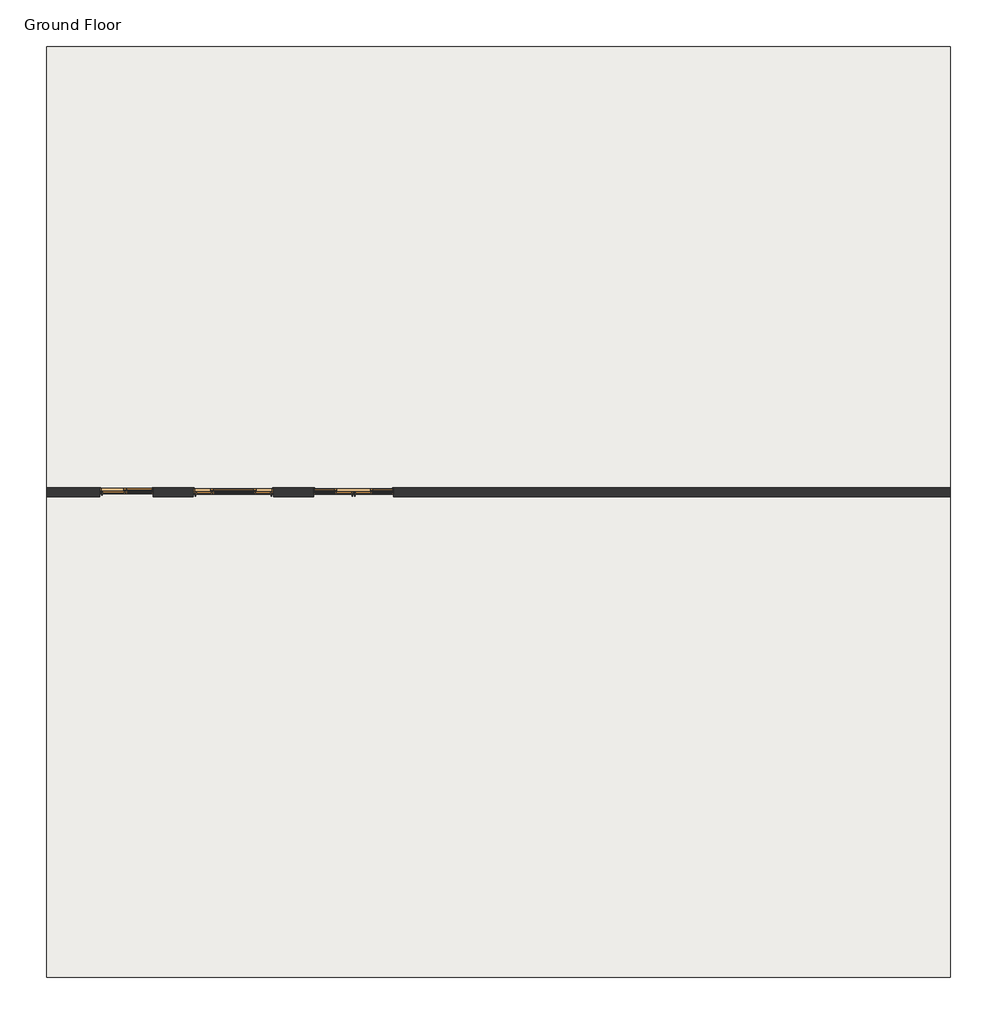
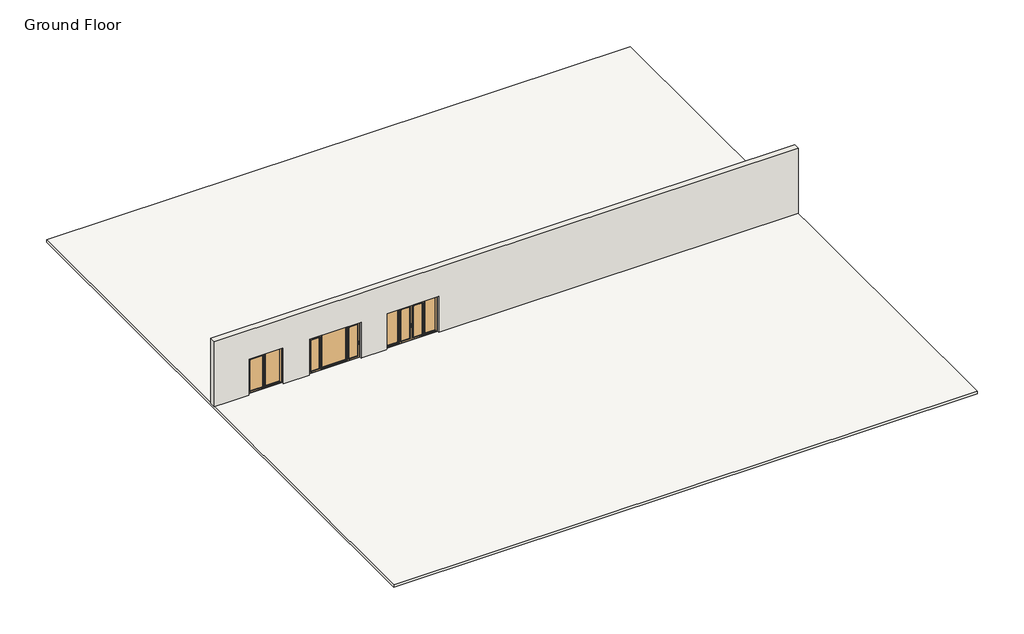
# One storey: 3 doors, 1 slab, 1 wall.
"""IFC4 building model written with IfcOpenShell, lengths in millimetres."""

from ifc_helpers import new_model, si_unit, frame, origin, place, context, project, spatial, polyline, outline, extrude, faceted_brep, transform, mapped, element, save
from components import door_d54a2562, door_69bad120, door_345c49a9, door_62632e80

model = new_model("IFC4")

# Units and contexts
model_context = context("Model", 3, world=origin())
ifc_project = project(units=[si_unit("LENGTHUNIT", "METRE", prefix="MILLI")], contexts=[model_context])

# Site, building, storey
site = spatial("IfcSite", under=ifc_project)
building = spatial("IfcBuilding", under=site)
storey = spatial("IfcBuildingStorey", under=building, Name="Ground Floor", Elevation=0.0)

# Doors
placement = place(None, origin())
door_shape = door_d54a2562(model_context)
element("IfcDoor", 1, ObjectType="2_pod-kli : 2_pod-kli", at=placement, inside=storey, context=model_context, shape_type="MappedRepresentation", body=[
    mapped(door_shape, transform((-12960.8494542, -129.194013, 0.0), x_axis=(1.0, 0.0, 0.0), y_axis=(0.0, 1.0, 0.0), z_axis=(0.0, 0.0, 1.0))),
])
door_2_shape = door_69bad120(model_context)
element("IfcDoor", 2, ObjectType="3_pod-kli_2+fix : 3_pod-kli_2+fix", at=placement, inside=storey, context=model_context, shape_type="MappedRepresentation", body=[
    mapped(door_2_shape, transform((-8940.8494542, -129.194013, -9.0000088), x_axis=(1.0, 0.0, 0.0), y_axis=(0.0, 1.0, 0.0), z_axis=(0.0, 0.0, 1.0))),
])
door_3_shape = door_345c49a9(model_context)
door_4_shape = door_62632e80(model_context)
element("IfcDoor", 3, ObjectType="4_pod-kli_2+2fix : 4_pod-kli_2+2fix", at=placement, inside=storey, context=model_context, shape_type="MappedRepresentation", body=[
    mapped(door_3_shape, transform((-4420.8494542, -129.194013, -8.8e-06), x_axis=(1.0, 0.0, 0.0), y_axis=(0.0, 1.0, 0.0), z_axis=(0.0, 0.0, 1.0))),
    mapped(door_4_shape, transform((-4420.8494542, -129.194013, -8.8e-06), x_axis=(1.0, 0.0, 0.0), y_axis=(0.0, 1.0, 0.0), z_axis=(0.0, 0.0, 1.0))),
])

# Slab
element("IfcSlab", 4, ObjectType="Generic 150mm", at=placement, inside=storey, context=model_context, shape_type="SweptSolid", body=[
    extrude(outline(polyline([(18029.1505458, -18373.0676766), (-15970.8494542, -18373.0676766), (-15970.8494542, 16626.9323234), (18029.1505458, 16626.9323234), (18029.1505458, -18373.0676766)])), frame((0.0, 0.0, -150.0), z_axis=(0.0, 0.0, 1.0), x_axis=(1.0, 0.0, 0.0)), (0.0, 0.0, 1.0), 150.0),
])

# Wall
element("IfcWall", 5, ObjectType="Double brick - 350", at=placement, inside=storey, context=model_context, shape_type="Brep", body=[
    faceted_brep([(18029.1505458, -304.194013, 0.0), (18029.1505458, -304.194013, 4000.0), (-15970.8494542, -304.194013, 4000.0), (-15970.8494542, -304.194013, 0.0), (-13970.8494542, -304.194013, 0.0), (-13970.8494542, -304.194013, 2220.0), (-11950.8494542, -304.194013, 2220.0), (-11950.8494542, -304.194013, 0.0), (-10450.8494542, -304.194013, 0.0), (-10450.8494542, -304.194013, 2210.9999912), (-7430.8494542, -304.194013, 2210.9999912), (-7430.8494542, -304.194013, 0.0), (-5930.8494542, -304.194013, 0.0), (-5930.8494542, -304.194013, 2219.9999912), (-2910.8494542, -304.194013, 2219.9999912), (-2910.8494542, -304.194013, 0.0), (18029.1505458, 45.805987, 4000.0), (18029.1505458, 45.805987, 0.0), (-2950.8494542, 45.805987, 0.0), (-2950.8494542, 45.805987, 2179.9999912), (-5890.8494542, 45.805987, 2179.9999912), (-5890.8494542, 45.805987, 0.0), (-7470.8494542, 45.805987, 0.0), (-7470.8494542, 45.805987, 2170.9999912), (-10410.8494542, 45.805987, 2170.9999912), (-10410.8494542, 45.805987, 0.0), (-11990.8494542, 45.805987, 0.0), (-11990.8494542, 45.805987, 2180.0), (-13930.8494542, 45.805987, 2180.0), (-13930.8494542, 45.805987, 0.0), (-15970.8494542, 45.805987, 0.0), (-15970.8494542, 45.805987, 4000.0), (-2910.8494542, -4.194013, 0.0), (-2950.8494542, -4.194013, 0.0), (-13930.8494542, 20.805987, 0.0), (-13970.8494542, 20.805987, 0.0), (-11950.8494542, 20.805987, 0.0), (-11990.8494542, 20.805987, 0.0), (-10410.8494542, -4.194013, 0.0), (-10450.8494542, -4.194013, 0.0), (-7430.8494542, -4.194013, 0.0), (-7470.8494542, -4.194013, 0.0), (-5890.8494542, -4.194013, 0.0), (-5930.8494542, -4.194013, 0.0), (-11950.8494542, 20.805987, 2220.0), (-13970.8494542, 20.805987, 2220.0), (-13930.8494542, 20.805987, 2180.0), (-11990.8494542, 20.805987, 2180.0), (-7430.8494542, -4.194013, 2210.9999912), (-10450.8494542, -4.194013, 2210.9999912), (-10410.8494542, -4.194013, 2170.9999912), (-7470.8494542, -4.194013, 2170.9999912), (-2910.8494542, -4.194013, 2219.9999912), (-5930.8494542, -4.194013, 2219.9999912), (-5890.8494542, -4.194013, 2179.9999912), (-2950.8494542, -4.194013, 2179.9999912)], [[[0, 1, 2, 3, 4, 5, 6, 7, 8, 9, 10, 11, 12, 13, 14, 15]], [[16, 17, 18, 19, 20, 21, 22, 23, 24, 25, 26, 27, 28, 29, 30, 31]], [[17, 0, 15, 32, 33, 18]], [[3, 30, 29, 34, 35, 4]], [[36, 37, 26, 25, 38, 39, 8, 7]], [[40, 41, 22, 21, 42, 43, 12, 11]], [[1, 0, 17, 16]], [[2, 1, 16, 31]], [[3, 2, 31, 30]], [[44, 45, 35, 34, 46, 47, 37, 36]], [[45, 44, 6, 5]], [[35, 45, 5, 4]], [[44, 36, 7, 6]], [[46, 34, 29, 28]], [[37, 47, 27, 26]], [[47, 46, 28, 27]], [[48, 49, 39, 38, 50, 51, 41, 40]], [[49, 48, 10, 9]], [[49, 9, 8, 39]], [[10, 48, 40, 11]], [[24, 50, 38, 25]], [[51, 23, 22, 41]], [[51, 50, 24, 23]], [[52, 53, 43, 42, 54, 55, 33, 32]], [[53, 52, 14, 13]], [[43, 53, 13, 12]], [[52, 32, 15, 14]], [[54, 42, 21, 20]], [[33, 55, 19, 18]], [[55, 54, 20, 19]]]),
])

save(model, "model.ifc")
